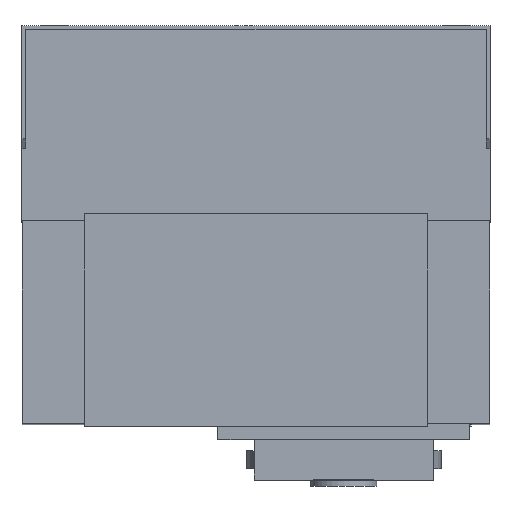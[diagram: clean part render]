
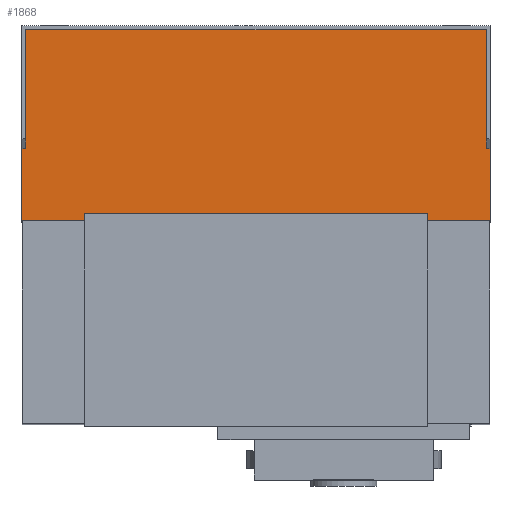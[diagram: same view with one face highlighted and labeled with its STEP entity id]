
A CAD part, top view. The second image highlights one B-rep face of the part: STEP entity #1868.
In plain terms, the highlighted planar face has unit normal (0, 0, 1).
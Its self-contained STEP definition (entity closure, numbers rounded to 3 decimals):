
#764=CARTESIAN_POINT('POINT22815',(119.975,
   -100.,191.));
#765=VERTEX_POINT('VERTEX22815',#764);
#808=CARTESIAN_POINT('POINT22818',(-119.975,
   -100.,191.));
#809=VERTEX_POINT('VERTEX22818',#808);
#887=CARTESIAN_POINT('POINT22822',(-88.,
   -100.,191.));
#888=VERTEX_POINT('VERTEX22822',#887);
#895=CARTESIAN_POINT('POS38586',(0.,-100.,
   191.));
#896=DIRECTION('DIR53868',(1.,0.,0.));
#897=VECTOR('VEC23304',#896,25.4);
#898=LINE('STRAIGHT23304',#895,#897);
#899=EDGE_CURVE('EDGE34954',#809,#888,#898,.T.);
#906=CARTESIAN_POINT('POINT22823',(-118.,
   -37.809,191.));
#907=VERTEX_POINT('VERTEX22823',#906);
#908=CARTESIAN_POINT('POINT22824',(-118.,
   -26.191,191.));
#909=VERTEX_POINT('VERTEX22824',#908);
#910=CARTESIAN_POINT('POS38587',(-118.,
   -32.546,191.));
#911=DIRECTION('DIR53869',(0.,1.,0.));
#912=VECTOR('VEC23305',#911,25.4);
#913=LINE('STRAIGHT23305',#910,#912);
#914=EDGE_CURVE('EDGE34955',#907,#909,#913,.T.);
#931=CARTESIAN_POINT('POINT22825',(118.,
   -26.191,191.));
#932=VERTEX_POINT('VERTEX22825',#931);
#933=CARTESIAN_POINT('POINT22826',(118.,
   -37.809,191.));
#934=VERTEX_POINT('VERTEX22826',#933);
#935=CARTESIAN_POINT('POS38590',(118.,
   -32.546,191.));
#936=DIRECTION('DIR53874',(0.,-1.,0.));
#937=VECTOR('VEC23306',#936,25.4);
#938=LINE('STRAIGHT23306',#935,#937);
#939=EDGE_CURVE('EDGE34957',#932,#934,#938,.T.);
#956=CARTESIAN_POINT('POINT22827',(88.,
   -100.,191.));
#957=VERTEX_POINT('VERTEX22827',#956);
#966=EDGE_CURVE('EDGE34960',#957,#765,#898,.T.);
#972=CARTESIAN_POINT('POINT22828',(88.,
   -96.5,191.));
#973=VERTEX_POINT('VERTEX22828',#972);
#974=CARTESIAN_POINT('POS38594',(88.,
   -100.5,191.));
#975=DIRECTION('DIR53880',(0.,-1.,0.));
#976=VECTOR('VEC23308',#975,25.4);
#977=LINE('STRAIGHT23308',#974,#976);
#978=EDGE_CURVE('EDGE34961',#973,#957,#977,.T.);
#1000=CARTESIAN_POINT('POINT22829',(-88.,
   -96.5,191.));
#1001=VERTEX_POINT('VERTEX22829',#1000);
#1002=CARTESIAN_POINT('POS38597',(0.,-96.5,
   191.));
#1003=DIRECTION('DIR53884',(1.,0.,0.));
#1004=VECTOR('VEC23310',#1003,25.4);
#1005=LINE('STRAIGHT23310',#1002,#1004);
#1006=EDGE_CURVE('EDGE34963',#1001,#973,#1005,.T.);
#1030=CARTESIAN_POINT('POS38600',(-88.,
   -100.5,191.));
#1031=DIRECTION('DIR53888',(0.,1.,0.));
#1032=VECTOR('VEC23312',#1031,25.4);
#1033=LINE('STRAIGHT23312',#1030,#1032);
#1034=EDGE_CURVE('EDGE34965',#888,#1001,#1033,.T.);
#1143=CARTESIAN_POINT('POINT22839',(120.,
   -100.,191.));
#1144=VERTEX_POINT('VERTEX22839',#1143);
#1151=EDGE_CURVE('EDGE34980',#765,#1144,#898,.T.);
#1283=CARTESIAN_POINT('POINT22848',(118.,
   -63.091,191.));
#1284=VERTEX_POINT('VERTEX22848',#1283);
#1291=CARTESIAN_POINT('POINT22849',(120.,
   -63.091,191.));
#1292=VERTEX_POINT('VERTEX22849',#1291);
#1293=CARTESIAN_POINT('POS38627',(0.,-63.091,
   191.));
#1294=DIRECTION('DIR53926',(1.,0.,0.));
#1295=VECTOR('VEC23328',#1294,25.4);
#1296=LINE('STRAIGHT23328',#1293,#1295);
#1297=EDGE_CURVE('EDGE34995',#1284,#1292,#1296,.T.);
#1321=CARTESIAN_POINT('POINT22851',(-118.,
   -63.091,191.));
#1322=VERTEX_POINT('VERTEX22851',#1321);
#1335=CARTESIAN_POINT('POINT22854',(-120.,
   -63.091,191.));
#1336=VERTEX_POINT('VERTEX22854',#1335);
#1343=EDGE_CURVE('EDGE35001',#1336,#1322,#1296,.T.);
#1349=CARTESIAN_POINT('POINT22855',(-120.,
   -100.,191.));
#1350=VERTEX_POINT('VERTEX22855',#1349);
#1351=EDGE_CURVE('EDGE35002',#1350,#809,#898,.T.);
#1724=CARTESIAN_POINT('POINT22884',(96.072,-2.,
   191.));
#1725=VERTEX_POINT('VERTEX22884',#1724);
#1726=CARTESIAN_POINT('POINT22885',(109.928,-2.,
   191.));
#1727=VERTEX_POINT('VERTEX22885',#1726);
#1728=CARTESIAN_POINT('POS38669',(0.,-2.,191.
   ));
#1729=DIRECTION('DIR53982',(1.,0.,0.));
#1730=VECTOR('VEC23356',#1729,25.4);
#1731=LINE('STRAIGHT23356',#1728,#1730);
#1732=EDGE_CURVE('EDGE35047',#1725,#1727,#1731,.T.);
#1760=CARTESIAN_POINT('POINT22888',(-118.,-2.,
   191.));
#1761=VERTEX_POINT('VERTEX22888',#1760);
#1762=EDGE_CURVE('EDGE35051',#909,#1761,#913,.T.);
#1779=EDGE_CURVE('EDGE35054',#1322,#907,#913,.T.);
#1792=EDGE_CURVE('EDGE35055',#934,#1284,#938,.T.);
#1803=CARTESIAN_POINT('POINT22891',(118.,-2.,
   191.));
#1804=VERTEX_POINT('VERTEX22891',#1803);
#1811=EDGE_CURVE('EDGE35058',#1804,#932,#938,.T.);
#1821=ORIENTED_EDGE('COEDGE70183',*,*,#1034,.T.);
#1822=ORIENTED_EDGE('COEDGE70184',*,*,#1006,.T.);
#1823=ORIENTED_EDGE('COEDGE70185',*,*,#978,.T.);
#1824=ORIENTED_EDGE('COEDGE70186',*,*,#966,.T.);
#1825=ORIENTED_EDGE('COEDGE70187',*,*,#1151,.T.);
#1826=CARTESIAN_POINT('POS38678',(120.,
   -50.,191.));
#1827=DIRECTION('DIR53995',(0.,1.,0.));
#1828=VECTOR('VEC23361',#1827,25.4);
#1829=LINE('STRAIGHT23361',#1826,#1828);
#1830=EDGE_CURVE('EDGE35059',#1144,#1292,#1829,.T.);
#1831=ORIENTED_EDGE('COEDGE70188',*,*,#1830,.T.);
#1832=ORIENTED_EDGE('COEDGE70189',*,*,#1297,.F.);
#1833=ORIENTED_EDGE('COEDGE70190',*,*,#1792,.F.);
#1834=ORIENTED_EDGE('COEDGE70191',*,*,#939,.F.);
#1835=ORIENTED_EDGE('COEDGE70192',*,*,#1811,.F.);
#1836=EDGE_CURVE('EDGE35060',#1727,#1804,#1731,.T.);
#1837=ORIENTED_EDGE('COEDGE70193',*,*,#1836,.F.);
#1838=ORIENTED_EDGE('COEDGE70194',*,*,#1732,.F.);
#1839=CARTESIAN_POINT('POINT22892',(-96.072,-2.,
   191.));
#1840=VERTEX_POINT('VERTEX22892',#1839);
#1841=EDGE_CURVE('EDGE35061',#1840,#1725,#1731,.T.);
#1842=ORIENTED_EDGE('COEDGE70195',*,*,#1841,.F.);
#1843=CARTESIAN_POINT('POINT22893',(-109.928,-2.,
   191.));
#1844=VERTEX_POINT('VERTEX22893',#1843);
#1845=EDGE_CURVE('EDGE35062',#1844,#1840,#1731,.T.);
#1846=ORIENTED_EDGE('COEDGE70196',*,*,#1845,.F.);
#1847=EDGE_CURVE('EDGE35063',#1761,#1844,#1731,.T.);
#1848=ORIENTED_EDGE('COEDGE70197',*,*,#1847,.F.);
#1849=ORIENTED_EDGE('COEDGE70198',*,*,#1762,.F.);
#1850=ORIENTED_EDGE('COEDGE70199',*,*,#914,.F.);
#1851=ORIENTED_EDGE('COEDGE70200',*,*,#1779,.F.);
#1852=ORIENTED_EDGE('COEDGE70201',*,*,#1343,.F.);
#1853=CARTESIAN_POINT('POS38679',(-120.,
   -50.,191.));
#1854=DIRECTION('DIR53996',(0.,-1.,0.));
#1855=VECTOR('VEC23362',#1854,25.4);
#1856=LINE('STRAIGHT23362',#1853,#1855);
#1857=EDGE_CURVE('EDGE35064',#1336,#1350,#1856,.T.);
#1858=ORIENTED_EDGE('COEDGE70202',*,*,#1857,.T.);
#1859=ORIENTED_EDGE('COEDGE70203',*,*,#1351,.T.);
#1860=ORIENTED_EDGE('COEDGE70204',*,*,#899,.T.);
#1861=EDGE_LOOP('NONE',(#1821,#1822,#1823,#1824,#1825,#1831,#1832,#1833,
   #1834,#1835,#1837,#1838,#1842,#1846,#1848,#1849,#1850,#1851,#1852,
   #1858,#1859,#1860));
#1862=FACE_BOUND('LOOP1',#1861,.T.);
#1863=CARTESIAN_POINT('POS38680',(0.,-50.,
   191.));
#1864=DIRECTION('DIR53997',(0.,0.,1.));
#1865=DIRECTION('DIR53998',(1.,0.,0.));
#1866=AXIS2_PLACEMENT_3D('AXIS15318',#1863,#1864,#1865);
#1867=PLANE('PLANE7637',#1866);
#1868=ADVANCED_FACE('FACE13457',(#1862),#1867,.T.);
